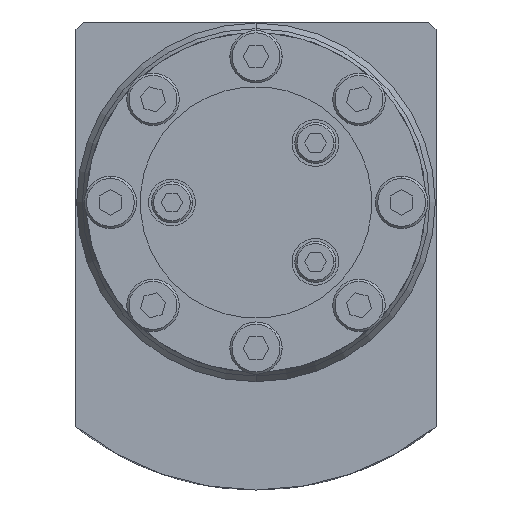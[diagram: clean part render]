
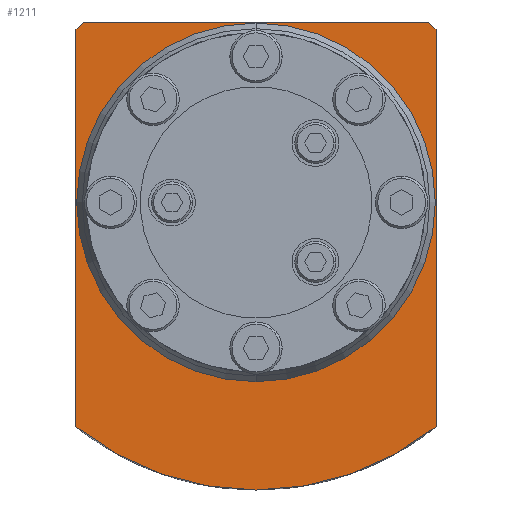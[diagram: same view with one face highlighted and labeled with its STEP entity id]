
A CAD part, front view. The second image highlights one B-rep face of the part: STEP entity #1211.
In plain terms, the highlighted planar face has unit normal (0, -1, 0).
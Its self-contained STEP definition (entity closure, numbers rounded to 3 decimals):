
#1=DIRECTION('',(-0.707,0.,0.707));
#2=VECTOR('',#1,1.414);
#3=CARTESIAN_POINT('',(24.1,0.,23.15));
#4=LINE('',#3,#2);
#5=DIRECTION('',(0.,0.,-1.));
#6=VECTOR('',#5,53.174);
#7=CARTESIAN_POINT('',(24.1,0.,23.15));
#8=LINE('',#7,#6);
#9=CARTESIAN_POINT('',(0.,0.,0.));
#10=DIRECTION('',(0.,1.,0.));
#11=DIRECTION('',(0.626,0.,-0.78));
#12=AXIS2_PLACEMENT_3D('',#9,#10,#11);
#14=DIRECTION('',(0.,0.,1.));
#15=VECTOR('',#14,53.174);
#16=CARTESIAN_POINT('',(-24.1,0.,-30.024));
#17=LINE('',#16,#15);
#18=DIRECTION('',(-0.707,0.,-0.707));
#19=VECTOR('',#18,1.414);
#20=CARTESIAN_POINT('',(-23.1,0.,24.15));
#21=LINE('',#20,#19);
#22=DIRECTION('',(1.,0.,0.));
#23=VECTOR('',#22,46.2);
#24=CARTESIAN_POINT('',(-23.1,0.,24.15));
#25=LINE('',#24,#23);
#26=CARTESIAN_POINT('',(0.,0.,0.));
#27=DIRECTION('',(0.,-1.,0.));
#28=DIRECTION('',(0.,0.,1.));
#29=AXIS2_PLACEMENT_3D('',#26,#27,#28);
#31=CARTESIAN_POINT('',(0.,0.,0.));
#32=DIRECTION('',(0.,-1.,0.));
#33=DIRECTION('',(0.,0.,-1.));
#34=AXIS2_PLACEMENT_3D('',#31,#32,#33);
#960=CARTESIAN_POINT('',(24.1,0.,-30.024));
#961=CARTESIAN_POINT('',(-24.1,0.,-30.024));
#962=VERTEX_POINT('',#960);
#963=VERTEX_POINT('',#961);
#976=CARTESIAN_POINT('',(24.1,0.,23.15));
#977=CARTESIAN_POINT('',(23.1,0.,24.15));
#978=VERTEX_POINT('',#976);
#979=VERTEX_POINT('',#977);
#983=CARTESIAN_POINT('',(-23.1,0.,24.15));
#984=CARTESIAN_POINT('',(-24.1,0.,23.15));
#985=VERTEX_POINT('',#983);
#986=VERTEX_POINT('',#984);
#1006=CARTESIAN_POINT('',(0.,0.,23.55));
#1007=CARTESIAN_POINT('',(0.,0.,-23.55));
#1008=VERTEX_POINT('',#1006);
#1009=VERTEX_POINT('',#1007);
#1186=CARTESIAN_POINT('',(0.,0.,0.));
#1187=DIRECTION('',(0.,1.,0.));
#1188=DIRECTION('',(1.,0.,0.));
#1189=AXIS2_PLACEMENT_3D('',#1186,#1187,#1188);
#1190=PLANE('',#1189);
#1192=ORIENTED_EDGE('',*,*,#1191,.F.);
#1194=ORIENTED_EDGE('',*,*,#1193,.T.);
#1196=ORIENTED_EDGE('',*,*,#1195,.T.);
#1198=ORIENTED_EDGE('',*,*,#1197,.T.);
#1200=ORIENTED_EDGE('',*,*,#1199,.F.);
#1202=ORIENTED_EDGE('',*,*,#1201,.T.);
#1203=EDGE_LOOP('',(#1192,#1194,#1196,#1198,#1200,#1202));
#1204=FACE_OUTER_BOUND('',#1203,.F.);
#1206=ORIENTED_EDGE('',*,*,#1205,.T.);
#1208=ORIENTED_EDGE('',*,*,#1207,.T.);
#1209=EDGE_LOOP('',(#1206,#1208));
#1210=FACE_BOUND('',#1209,.F.);
#1211=ADVANCED_FACE('',(#1204,#1210),#1190,.F.);
#13=CIRCLE('',#12,38.5);
#30=CIRCLE('',#29,23.55);
#35=CIRCLE('',#34,23.55);
#1191=EDGE_CURVE('',#978,#979,#4,.T.);
#1193=EDGE_CURVE('',#978,#962,#8,.T.);
#1195=EDGE_CURVE('',#962,#963,#13,.T.);
#1197=EDGE_CURVE('',#963,#986,#17,.T.);
#1199=EDGE_CURVE('',#985,#986,#21,.T.);
#1201=EDGE_CURVE('',#985,#979,#25,.T.);
#1205=EDGE_CURVE('',#1008,#1009,#30,.T.);
#1207=EDGE_CURVE('',#1009,#1008,#35,.T.);
